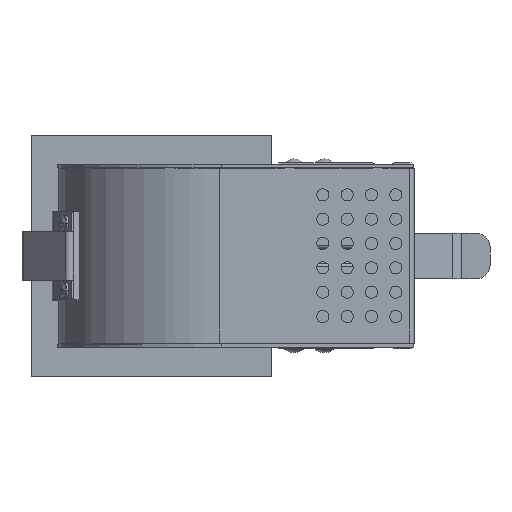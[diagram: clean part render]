
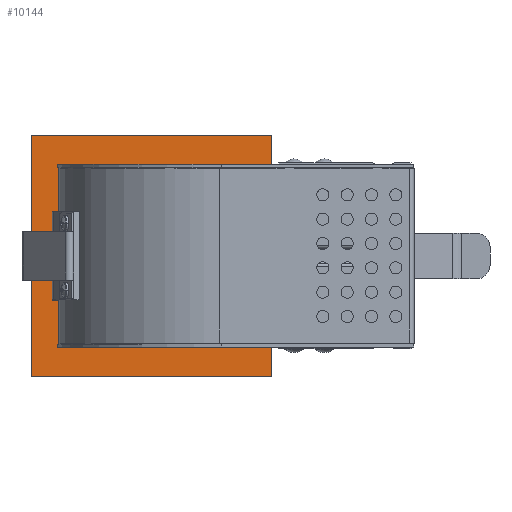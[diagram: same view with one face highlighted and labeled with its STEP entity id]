
A CAD part, top view. The second image highlights one B-rep face of the part: STEP entity #10144.
In plain terms, the highlighted free-form (B-spline) face has degree [1, 1] with [2, 2] control points.
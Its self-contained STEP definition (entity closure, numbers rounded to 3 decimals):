
#627 = CARTESIAN_POINT ( 'NONE',  ( 41.08, 41.08, 1.2 ) ) ;
#1225 = CARTESIAN_POINT ( 'NONE',  ( 28.5, 28.8, 1.2 ) ) ;
#1341 = CARTESIAN_POINT ( 'NONE',  ( -39.5, -39.5, 1.2 ) ) ;
#2497 = VECTOR ( 'NONE', #33193, 1000. ) ;
#2805 = CARTESIAN_POINT ( 'NONE',  ( -28.5, 28.8, 1.2 ) ) ;
#2830 = CARTESIAN_POINT ( 'NONE',  ( 39.5, 39.5, 1.2 ) ) ;
#2891 = VECTOR ( 'NONE', #13634, 1000. ) ;
#3806 = CARTESIAN_POINT ( 'NONE',  ( -41.08, 41.08, 1.2 ) ) ;
#3939 = ORIENTED_EDGE ( 'NONE', *, *, #30888, .T. ) ;
#4114 = CARTESIAN_POINT ( 'NONE',  ( 39.5, 39.5, 1.2 ) ) ;
#4286 = ORIENTED_EDGE ( 'NONE', *, *, #28083, .T. ) ;
#5566 = LINE ( 'NONE', #11956, #32698 ) ;
#5668 = ORIENTED_EDGE ( 'NONE', *, *, #29087, .T. ) ;
#5723 = DIRECTION ( 'NONE',  ( 0., 1., 0. ) ) ;
#7078 = EDGE_CURVE ( 'NONE', #18671, #7840, #20819, .T. ) ;
#7520 = CARTESIAN_POINT ( 'NONE',  ( 28.5, -28.8, 1.2 ) ) ;
#7840 = VERTEX_POINT ( 'NONE', #36953 ) ;
#7849 = EDGE_LOOP ( 'NONE', ( #3939, #4286, #16632, #5668 ) ) ;
#10144 = ADVANCED_FACE ( 'NONE', ( #32789, #33581 ), #35019, .T. ) ;
#10213 = CARTESIAN_POINT ( 'NONE',  ( 41.08, -41.08, 1.2 ) ) ;
#10537 = LINE ( 'NONE', #7520, #38391 ) ;
#10945 = DIRECTION ( 'NONE',  ( -1., 0., 0. ) ) ;
#11956 = CARTESIAN_POINT ( 'NONE',  ( -28.5, -28.8, 1.2 ) ) ;
#12681 = VECTOR ( 'NONE', #34890, 1000. ) ;
#12739 = CARTESIAN_POINT ( 'NONE',  ( -28.5, 28.8, 1.2 ) ) ;
#13027 = EDGE_CURVE ( 'NONE', #38209, #33040, #10537, .T. ) ;
#13142 = VECTOR ( 'NONE', #26162, 1000. ) ;
#13634 = DIRECTION ( 'NONE',  ( 0., -1., 0. ) ) ;
#14399 = EDGE_CURVE ( 'NONE', #33040, #18671, #5566, .T. ) ;
#14825 = VERTEX_POINT ( 'NONE', #24807 ) ;
#16481 = VERTEX_POINT ( 'NONE', #4114 ) ;
#16632 = ORIENTED_EDGE ( 'NONE', *, *, #32272, .T. ) ;
#17000 = ORIENTED_EDGE ( 'NONE', *, *, #13027, .T. ) ;
#17980 = EDGE_LOOP ( 'NONE', ( #22930, #37467, #17000, #22409 ) ) ;
#18518 = CARTESIAN_POINT ( 'NONE',  ( 28.5, -28.8, 1.2 ) ) ;
#18671 = VERTEX_POINT ( 'NONE', #12739 ) ;
#18877 = DIRECTION ( 'NONE',  ( 0., -1., 0. ) ) ;
#19444 = LINE ( 'NONE', #1225, #2891 ) ;
#20321 = CARTESIAN_POINT ( 'NONE',  ( 39.5, -39.5, 1.2 ) ) ;
#20819 = LINE ( 'NONE', #2805, #13142 ) ;
#21205 = VERTEX_POINT ( 'NONE', #1341 ) ;
#22409 = ORIENTED_EDGE ( 'NONE', *, *, #14399, .T. ) ;
#22578 = CARTESIAN_POINT ( 'NONE',  ( 39.5, -39.5, 1.2 ) ) ;
#22735 = CARTESIAN_POINT ( 'NONE',  ( -39.5, -39.5, 1.2 ) ) ;
#22930 = ORIENTED_EDGE ( 'NONE', *, *, #7078, .T. ) ;
#23122 = EDGE_CURVE ( 'NONE', #7840, #38209, #19444, .T. ) ;
#23626 = LINE ( 'NONE', #2830, #2497 ) ;
#24791 = CARTESIAN_POINT ( 'NONE',  ( -41.08, -41.08, 1.2 ) ) ;
#24807 = CARTESIAN_POINT ( 'NONE',  ( -39.5, 39.5, 1.2 ) ) ;
#25429 = LINE ( 'NONE', #37039, #33181 ) ;
#25635 = VERTEX_POINT ( 'NONE', #22578 ) ;
#26162 = DIRECTION ( 'NONE',  ( 1., 0., 0. ) ) ;
#27107 = DIRECTION ( 'NONE',  ( 0., 1., 0. ) ) ;
#28083 = EDGE_CURVE ( 'NONE', #21205, #25635, #37887, .T. ) ;
#29087 = EDGE_CURVE ( 'NONE', #16481, #14825, #23626, .T. ) ;
#29667 = LINE ( 'NONE', #20321, #38327 ) ;
#30888 = EDGE_CURVE ( 'NONE', #14825, #21205, #25429, .T. ) ;
#32272 = EDGE_CURVE ( 'NONE', #25635, #16481, #29667, .T. ) ;
#32698 = VECTOR ( 'NONE', #27107, 1000. ) ;
#32789 = FACE_OUTER_BOUND ( 'NONE', #7849, .T. ) ;
#33040 = VERTEX_POINT ( 'NONE', #36168 ) ;
#33181 = VECTOR ( 'NONE', #18877, 1000. ) ;
#33193 = DIRECTION ( 'NONE',  ( -1., 0., 0. ) ) ;
#33581 = FACE_BOUND ( 'NONE', #17980, .T. ) ;
#34890 = DIRECTION ( 'NONE',  ( 1., 0., 0. ) ) ;
#35019 = B_SPLINE_SURFACE_WITH_KNOTS ( 'NONE', 1, 1, ( 
 ( #24791, #3806 ),
 ( #10213, #627 ) ),
 .UNSPECIFIED., .F., .F., .F.,
 ( 2, 2 ),
 ( 2, 2 ),
 ( -41.08, 41.08 ),
 ( -41.08, 41.08 ),
 .UNSPECIFIED. ) ;
#36168 = CARTESIAN_POINT ( 'NONE',  ( -28.5, -28.8, 1.2 ) ) ;
#36953 = CARTESIAN_POINT ( 'NONE',  ( 28.5, 28.8, 1.2 ) ) ;
#37039 = CARTESIAN_POINT ( 'NONE',  ( -39.5, 39.5, 1.2 ) ) ;
#37467 = ORIENTED_EDGE ( 'NONE', *, *, #23122, .T. ) ;
#37887 = LINE ( 'NONE', #22735, #12681 ) ;
#38209 = VERTEX_POINT ( 'NONE', #18518 ) ;
#38327 = VECTOR ( 'NONE', #5723, 1000. ) ;
#38391 = VECTOR ( 'NONE', #10945, 1000. ) ;
